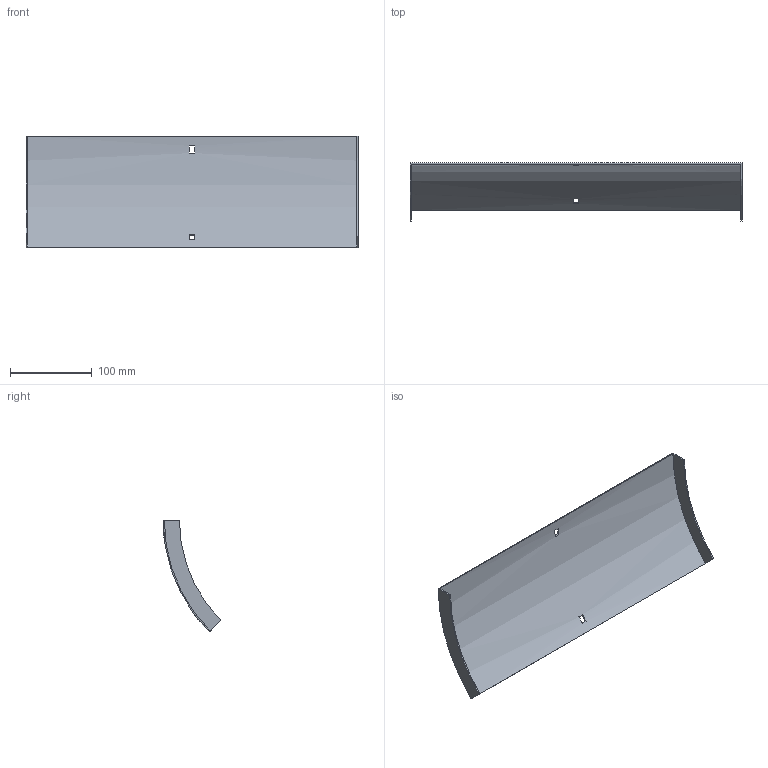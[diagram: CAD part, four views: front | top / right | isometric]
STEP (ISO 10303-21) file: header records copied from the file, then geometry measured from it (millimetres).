
FILE_DESCRIPTION (( 'STEP AP214' ), '1' );
FILE_NAME ('34N1I400.step', '2025-02-21T09:16:34', ( '' ), ( '' ), 'SwSTEP 2.0', 'SolidWorks 2023', '' );
FILE_SCHEMA (( 'AUTOMOTIVE_DESIGN' ));
Length unit declared in the file: millimetre
Products named in the file (1): 34N1I400
Bounding box: 407 x 70.96 x 137.18 mm (x, y, z)
Volume: 100472.2 mm3; surface area: 135800.1 mm2
Topology: 1 solids, 1 shells, 18 faces, 48 edges, 32 vertices
Faces by surface type: plane 14, cylinder 4
Entity records: 599 total; most frequent: DIRECTION 102, CARTESIAN_POINT 99, ORIENTED_EDGE 96, EDGE_CURVE 48, AXIS2_PLACEMENT_3D 35, LINE 32, VERTEX_POINT 32, VECTOR 32
